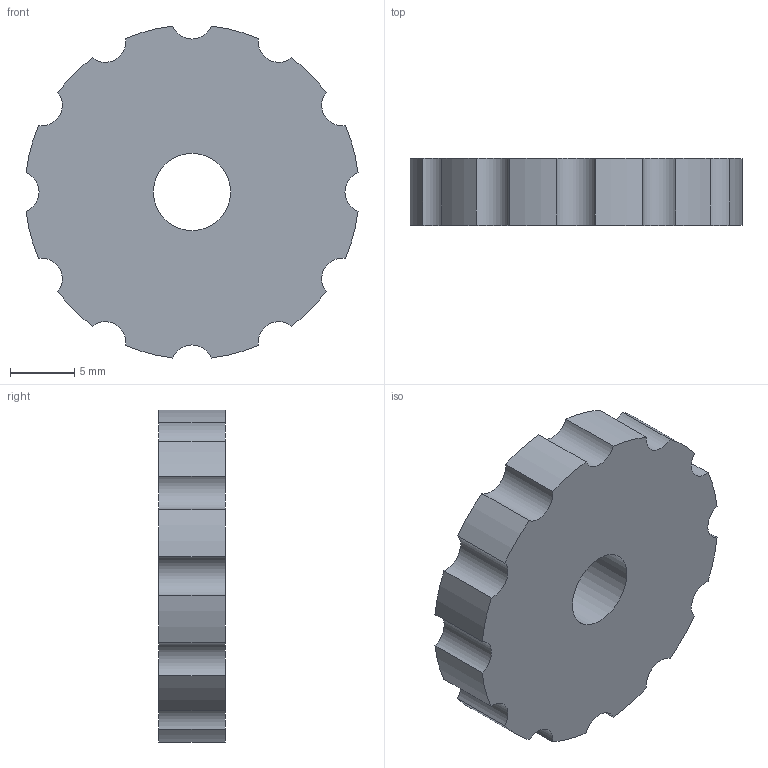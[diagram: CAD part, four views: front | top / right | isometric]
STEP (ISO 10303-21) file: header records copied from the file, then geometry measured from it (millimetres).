
FILE_DESCRIPTION(('Open CASCADE Model'),'2;1');
FILE_NAME('Open CASCADE Shape Model','2026-10-17T21:54:42',('Author'),( 'Open CASCADE'),'Open CASCADE STEP processor 7.9','Open CASCADE 7.9' ,'Unknown');
FILE_SCHEMA(('AUTOMOTIVE_DESIGN { 1 0 10303 214 1 1 1 1 }'));
Length unit declared in the file: millimetre
Products named in the file (1): Open CASCADE STEP translator 7.9 11
Bounding box: 25.83 x 5.2 x 25.83 mm (x, y, z)
Volume: 2466.5 mm3; surface area: 1524 mm2
Topology: 1 solids, 1 shells, 27 faces, 75 edges, 50 vertices
Faces by surface type: cylinder 25, plane 2
Full cylindrical faces by diameter (mm): 6 x1
Entity records: 1888 total; most frequent: CARTESIAN_POINT 447, DIRECTION 267, ORIENTED_EDGE 150, PCURVE 150, DEFINITIONAL_REPRESENTATION 150, CIRCLE 84, AXIS2_PLACEMENT_3D 78, LINE 77
